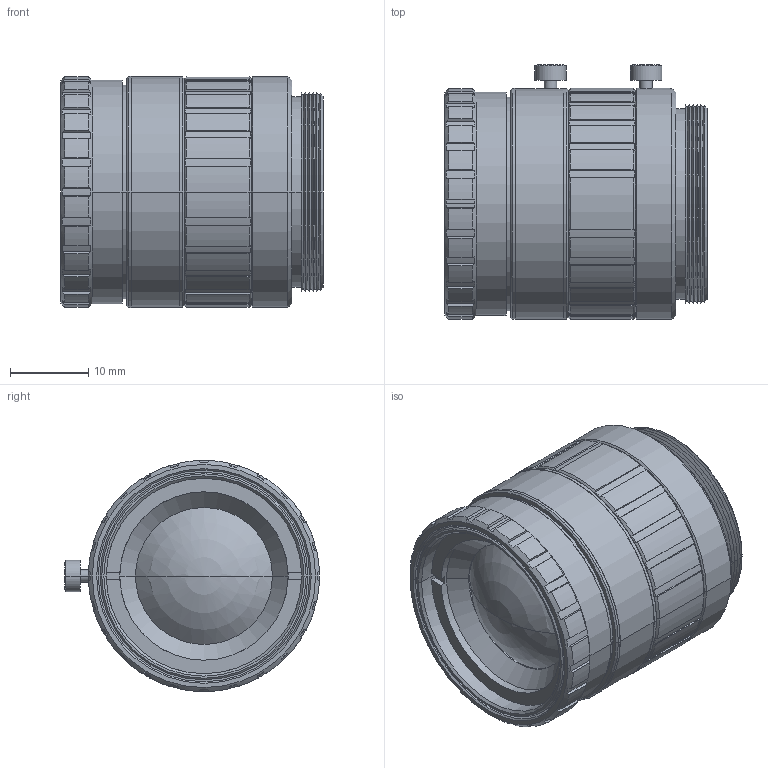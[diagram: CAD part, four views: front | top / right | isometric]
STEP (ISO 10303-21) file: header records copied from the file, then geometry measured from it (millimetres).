
FILE_DESCRIPTION(('CoCreate Modeling STEP Export'),'2;1');
FILE_NAME('HF16HA-1B_3D_Modeling.stp','2016-05-11T18:22:13',(''),(''),'CoCreate Modeling STEP processor for AP214 (Solid Model)','CoCreate Modeling 17.0 01-Apr-2010 (C) Parametric Technology GmbH','');
FILE_SCHEMA(('AUTOMOTIVE_DESIGN { 1 0 10303 214 1 1 1 1 }'));
Length unit declared in the file: millimetre
Products named in the file (2): HF16HA-1B
Assembly tree (1 placements, depth 2):
  HF16HA-1B
    HF16HA-1B
Bounding box: 33.5 x 32.55 x 29.5 mm (x, y, z)
Volume: 19574.2 mm3; surface area: 7356 mm2
Topology: 1 solids, 1 shells, 332 faces, 882 edges, 564 vertices
Faces by surface type: cylinder 136, plane 130, cone 62, sphere 2, torus 2
Entity records: 12071 total; most frequent: CARTESIAN_POINT 4226, ORIENTED_EDGE 1756, DIRECTION 1268, EDGE_CURVE 878, VERTEX_POINT 564, AXIS2_PLACEMENT_3D 472, EDGE_LOOP 348, FACE_OUTER_BOUND 332
